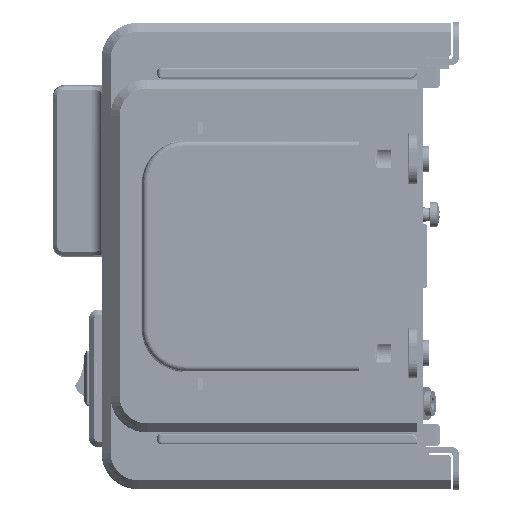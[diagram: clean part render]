
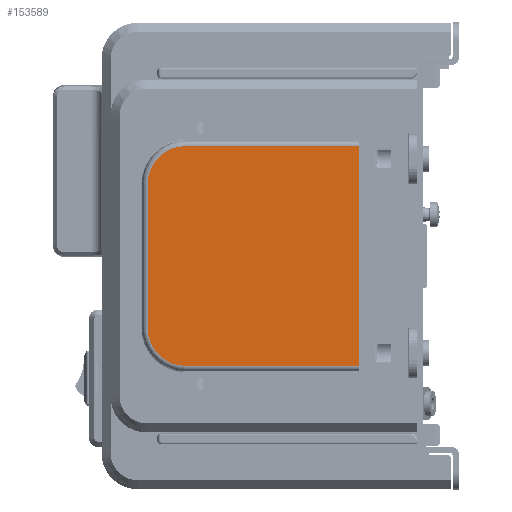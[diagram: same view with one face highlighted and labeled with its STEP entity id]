
A CAD part, left-side view. The second image highlights one B-rep face of the part: STEP entity #153589.
In plain terms, the highlighted planar face has unit normal (-1, 0, 0).
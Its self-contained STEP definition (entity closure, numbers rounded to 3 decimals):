
#42978=DIRECTION('',(0.,0.,-1.));
#42979=VECTOR('',#42978,61.);
#42980=CARTESIAN_POINT('',(-118.55,16.,30.5));
#42981=LINE('',#42980,#42979);
#42982=CARTESIAN_POINT('',(-118.55,64.2,-20.));
#42983=DIRECTION('',(1.,0.,0.));
#42984=DIRECTION('',(0.,0.,-1.));
#42985=AXIS2_PLACEMENT_3D('',#42982,#42983,#42984);
#42987=CARTESIAN_POINT('',(-118.55,64.2,20.));
#42988=DIRECTION('',(1.,0.,0.));
#42989=DIRECTION('',(0.,1.,0.));
#42990=AXIS2_PLACEMENT_3D('',#42987,#42988,#42989);
#42992=DIRECTION('',(0.,-1.,0.));
#42993=VECTOR('',#42992,48.2);
#42994=CARTESIAN_POINT('',(-118.55,64.2,30.5));
#42995=LINE('',#42994,#42993);
#43000=DIRECTION('',(0.,-1.,0.));
#43001=VECTOR('',#43000,48.2);
#43002=CARTESIAN_POINT('',(-118.55,64.2,-30.5));
#43003=LINE('',#43002,#43001);
#43014=DIRECTION('',(0.,0.,-1.));
#43015=VECTOR('',#43014,40.);
#43016=CARTESIAN_POINT('',(-118.55,74.7,20.));
#43017=LINE('',#43016,#43015);
#112371=CARTESIAN_POINT('',(-118.55,16.,-30.5));
#112372=VERTEX_POINT('',#112371);
#112373=CARTESIAN_POINT('',(-118.55,16.,30.5));
#112375=VERTEX_POINT('',#112373);
#112397=CARTESIAN_POINT('',(-118.55,64.2,-30.5));
#112398=VERTEX_POINT('',#112397);
#112399=CARTESIAN_POINT('',(-118.55,74.7,-20.));
#112400=VERTEX_POINT('',#112399);
#112401=CARTESIAN_POINT('',(-118.55,74.7,20.));
#112402=VERTEX_POINT('',#112401);
#112403=CARTESIAN_POINT('',(-118.55,64.2,30.5));
#112404=VERTEX_POINT('',#112403);
#153572=CARTESIAN_POINT('',(-118.55,45.35,0.));
#153573=DIRECTION('',(1.,0.,0.));
#153574=DIRECTION('',(0.,0.,-1.));
#153575=AXIS2_PLACEMENT_3D('',#153572,#153573,#153574);
#153576=PLANE('',#153575);
#153577=ORIENTED_EDGE('',*,*,#153421,.T.);
#153579=ORIENTED_EDGE('',*,*,#153578,.F.);
#153581=ORIENTED_EDGE('',*,*,#153580,.T.);
#153583=ORIENTED_EDGE('',*,*,#153582,.F.);
#153585=ORIENTED_EDGE('',*,*,#153584,.T.);
#153586=ORIENTED_EDGE('',*,*,#153564,.T.);
#153587=EDGE_LOOP('',(#153577,#153579,#153581,#153583,#153585,#153586));
#153588=FACE_OUTER_BOUND('',#153587,.F.);
#153589=ADVANCED_FACE('',(#153588),#153576,.F.);
#42986=CIRCLE('',#42985,10.5);
#42991=CIRCLE('',#42990,10.5);
#153421=EDGE_CURVE('',#112375,#112372,#42981,.T.);
#153564=EDGE_CURVE('',#112404,#112375,#42995,.T.);
#153578=EDGE_CURVE('',#112398,#112372,#43003,.T.);
#153580=EDGE_CURVE('',#112398,#112400,#42986,.T.);
#153582=EDGE_CURVE('',#112402,#112400,#43017,.T.);
#153584=EDGE_CURVE('',#112402,#112404,#42991,.T.);
